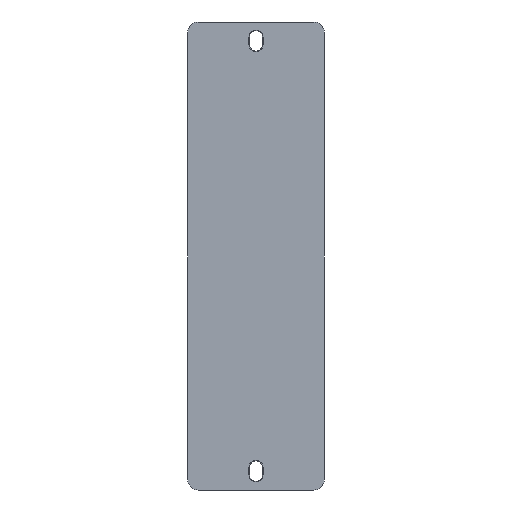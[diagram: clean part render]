
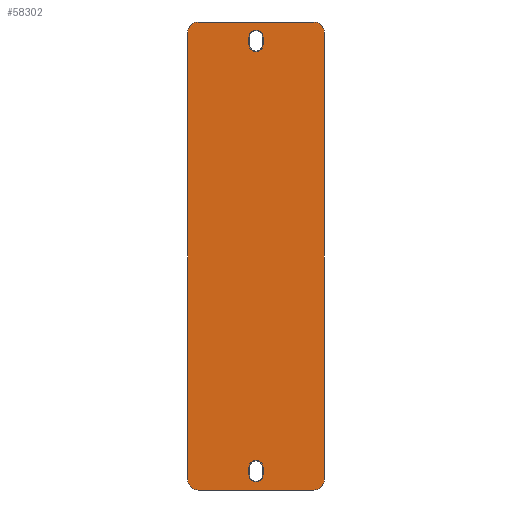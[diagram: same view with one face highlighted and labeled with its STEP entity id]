
A CAD part, front view. The second image highlights one B-rep face of the part: STEP entity #58302.
In plain terms, the highlighted planar face has unit normal (0, -1, 0).
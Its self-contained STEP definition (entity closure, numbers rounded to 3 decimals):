
#4253=CARTESIAN_POINT('',(27.5,12.,-163.7));
#4254=DIRECTION('',(0.,-1.,0.));
#4255=DIRECTION('',(0.,0.,-1.));
#4256=AXIS2_PLACEMENT_3D('',#4253,#4254,#4255);
#4258=DIRECTION('',(1.,0.,0.));
#4259=VECTOR('',#4258,55.);
#4260=CARTESIAN_POINT('',(-27.5,12.,-168.7));
#4261=LINE('',#4260,#4259);
#4262=CARTESIAN_POINT('',(-27.5,12.,-163.7));
#4263=DIRECTION('',(0.,-1.,0.));
#4264=DIRECTION('',(-1.,0.,0.));
#4265=AXIS2_PLACEMENT_3D('',#4262,#4263,#4264);
#4267=DIRECTION('',(0.,0.,-1.));
#4268=VECTOR('',#4267,212.4);
#4269=CARTESIAN_POINT('',(-32.5,12.,48.7));
#4270=LINE('',#4269,#4268);
#4271=CARTESIAN_POINT('',(-27.5,12.,48.7));
#4272=DIRECTION('',(0.,-1.,0.));
#4273=DIRECTION('',(0.,0.,1.));
#4274=AXIS2_PLACEMENT_3D('',#4271,#4272,#4273);
#4276=DIRECTION('',(-1.,0.,0.));
#4277=VECTOR('',#4276,55.);
#4278=CARTESIAN_POINT('',(27.5,12.,53.7));
#4279=LINE('',#4278,#4277);
#4280=CARTESIAN_POINT('',(27.5,12.,48.7));
#4281=DIRECTION('',(0.,-1.,0.));
#4282=DIRECTION('',(1.,0.,0.));
#4283=AXIS2_PLACEMENT_3D('',#4280,#4281,#4282);
#4285=DIRECTION('',(0.,0.,1.));
#4286=VECTOR('',#4285,212.4);
#4287=CARTESIAN_POINT('',(32.5,12.,-163.7));
#4288=LINE('',#4287,#4286);
#4289=CARTESIAN_POINT('',(0.,12.,43.));
#4290=DIRECTION('',(0.,1.,0.));
#4291=DIRECTION('',(1.,0.,0.));
#4292=AXIS2_PLACEMENT_3D('',#4289,#4290,#4291);
#4294=DIRECTION('',(0.,0.,-1.));
#4295=VECTOR('',#4294,3.5);
#4296=CARTESIAN_POINT('',(3.349,12.,46.5));
#4297=LINE('',#4296,#4295);
#4298=CARTESIAN_POINT('',(0.,12.,46.5));
#4299=DIRECTION('',(0.,1.,0.));
#4300=DIRECTION('',(0.,0.,1.));
#4301=AXIS2_PLACEMENT_3D('',#4298,#4299,#4300);
#4303=CARTESIAN_POINT('',(0.,12.,46.5));
#4304=DIRECTION('',(0.,1.,0.));
#4305=DIRECTION('',(-1.,0.,0.));
#4306=AXIS2_PLACEMENT_3D('',#4303,#4304,#4305);
#4308=DIRECTION('',(0.,0.,1.));
#4309=VECTOR('',#4308,3.5);
#4310=CARTESIAN_POINT('',(-3.349,12.,43.));
#4311=LINE('',#4310,#4309);
#4312=CARTESIAN_POINT('',(0.,12.,43.));
#4313=DIRECTION('',(0.,1.,0.));
#4314=DIRECTION('',(0.,0.,-1.));
#4315=AXIS2_PLACEMENT_3D('',#4312,#4313,#4314);
#4317=DIRECTION('',(0.,0.,-1.));
#4318=VECTOR('',#4317,3.5);
#4319=CARTESIAN_POINT('',(3.349,12.,-158.));
#4320=LINE('',#4319,#4318);
#4321=CARTESIAN_POINT('',(0.,12.,-158.));
#4322=DIRECTION('',(0.,1.,0.));
#4323=DIRECTION('',(0.,0.,1.));
#4324=AXIS2_PLACEMENT_3D('',#4321,#4322,#4323);
#4326=CARTESIAN_POINT('',(0.,12.,-158.));
#4327=DIRECTION('',(0.,1.,0.));
#4328=DIRECTION('',(-1.,0.,0.));
#4329=AXIS2_PLACEMENT_3D('',#4326,#4327,#4328);
#4331=DIRECTION('',(0.,0.,1.));
#4332=VECTOR('',#4331,3.5);
#4333=CARTESIAN_POINT('',(-3.349,12.,
-161.5));
#4334=LINE('',#4333,#4332);
#4335=CARTESIAN_POINT('',(0.,12.,-161.5));
#4336=DIRECTION('',(0.,1.,0.));
#4337=DIRECTION('',(0.,0.,-1.));
#4338=AXIS2_PLACEMENT_3D('',#4335,#4336,#4337);
#4340=CARTESIAN_POINT('',(0.,12.,-161.5));
#4341=DIRECTION('',(0.,1.,0.));
#4342=DIRECTION('',(1.,0.,0.));
#4343=AXIS2_PLACEMENT_3D('',#4340,#4341,#4342);
#46116=CARTESIAN_POINT('',(3.349,12.,46.5));
#46117=CARTESIAN_POINT('',(3.349,12.,43.));
#46118=VERTEX_POINT('',#46116);
#46119=VERTEX_POINT('',#46117);
#50094=CARTESIAN_POINT('',(27.5,12.,53.7));
#50095=CARTESIAN_POINT('',(-27.5,12.,53.7));
#50096=VERTEX_POINT('',#50094);
#50097=VERTEX_POINT('',#50095);
#50545=CARTESIAN_POINT('',(3.349,12.,-161.5));
#50547=VERTEX_POINT('',#50545);
#50934=CARTESIAN_POINT('',(-3.349,12.,
-158.));
#50936=VERTEX_POINT('',#50934);
#50986=CARTESIAN_POINT('',(32.5,12.,-163.7));
#50987=VERTEX_POINT('',#50986);
#51163=CARTESIAN_POINT('',(27.5,12.,-168.7));
#51164=VERTEX_POINT('',#51163);
#51176=CARTESIAN_POINT('',(-3.349,12.,
-161.5));
#51177=VERTEX_POINT('',#51176);
#51461=CARTESIAN_POINT('',(0.,12.,
-154.651));
#51462=VERTEX_POINT('',#51461);
#52509=CARTESIAN_POINT('',(32.5,12.,48.7));
#52510=VERTEX_POINT('',#52509);
#52907=CARTESIAN_POINT('',(3.349,12.,
-158.));
#52908=VERTEX_POINT('',#52907);
#53274=CARTESIAN_POINT('',(-27.5,12.,-168.7));
#53275=VERTEX_POINT('',#53274);
#53343=CARTESIAN_POINT('',(-32.5,12.,
48.7));
#53344=VERTEX_POINT('',#53343);
#53428=CARTESIAN_POINT('',(-3.349,12.,43.));
#53430=VERTEX_POINT('',#53428);
#54278=CARTESIAN_POINT('',(-3.349,12.,
46.5));
#54279=VERTEX_POINT('',#54278);
#54652=CARTESIAN_POINT('',(-32.5,12.,-163.7));
#54653=VERTEX_POINT('',#54652);
#55459=CARTESIAN_POINT('',(0.,12.,
49.849));
#55460=VERTEX_POINT('',#55459);
#55699=CARTESIAN_POINT('',(0.,12.,
39.651));
#55700=VERTEX_POINT('',#55699);
#55742=CARTESIAN_POINT('',(0.,12.,
-164.849));
#55743=VERTEX_POINT('',#55742);
#58257=CARTESIAN_POINT('',(0.,12.,-57.5));
#58258=DIRECTION('',(0.,1.,0.));
#58259=DIRECTION('',(0.,0.,-1.));
#58260=AXIS2_PLACEMENT_3D('',#58257,#58258,#58259);
#58261=PLANE('',#58260);
#58263=ORIENTED_EDGE('',*,*,#58262,.F.);
#58265=ORIENTED_EDGE('',*,*,#58264,.F.);
#58267=ORIENTED_EDGE('',*,*,#58266,.F.);
#58269=ORIENTED_EDGE('',*,*,#58268,.F.);
#58271=ORIENTED_EDGE('',*,*,#58270,.F.);
#58273=ORIENTED_EDGE('',*,*,#58272,.F.);
#58275=ORIENTED_EDGE('',*,*,#58274,.F.);
#58277=ORIENTED_EDGE('',*,*,#58276,.F.);
#58278=EDGE_LOOP('',(#58263,#58265,#58267,#58269,#58271,#58273,#58275,#58277));
#58279=FACE_OUTER_BOUND('',#58278,.F.);
#58281=ORIENTED_EDGE('',*,*,#58280,.F.);
#58283=ORIENTED_EDGE('',*,*,#58282,.F.);
#58285=ORIENTED_EDGE('',*,*,#58284,.F.);
#58287=ORIENTED_EDGE('',*,*,#58286,.F.);
#58289=ORIENTED_EDGE('',*,*,#58288,.F.);
#58291=ORIENTED_EDGE('',*,*,#58290,.F.);
#58292=EDGE_LOOP('',(#58281,#58283,#58285,#58287,#58289,#58291));
#58293=FACE_BOUND('',#58292,.F.);
#58294=ORIENTED_EDGE('',*,*,#58239,.F.);
#58295=ORIENTED_EDGE('',*,*,#58250,.F.);
#58296=ORIENTED_EDGE('',*,*,#58151,.F.);
#58297=ORIENTED_EDGE('',*,*,#58167,.F.);
#58298=ORIENTED_EDGE('',*,*,#58183,.F.);
#58299=ORIENTED_EDGE('',*,*,#58181,.F.);
#58300=EDGE_LOOP('',(#58294,#58295,#58296,#58297,#58298,#58299));
#58301=FACE_BOUND('',#58300,.F.);
#58302=ADVANCED_FACE('',(#58279,#58293,#58301),#58261,.F.);
#4257=CIRCLE('',#4256,5.);
#4266=CIRCLE('',#4265,5.);
#4275=CIRCLE('',#4274,5.);
#4284=CIRCLE('',#4283,5.);
#4293=CIRCLE('',#4292,3.349);
#4302=CIRCLE('',#4301,3.349);
#4307=CIRCLE('',#4306,3.349);
#4316=CIRCLE('',#4315,3.349);
#4325=CIRCLE('',#4324,3.349);
#4330=CIRCLE('',#4329,3.349);
#4339=CIRCLE('',#4338,3.349);
#4344=CIRCLE('',#4343,3.349);
#58151=EDGE_CURVE('',#50936,#51462,#4330,.T.);
#58167=EDGE_CURVE('',#51177,#50936,#4334,.T.);
#58181=EDGE_CURVE('',#50547,#55743,#4344,.T.);
#58183=EDGE_CURVE('',#55743,#51177,#4339,.T.);
#58239=EDGE_CURVE('',#52908,#50547,#4320,.T.);
#58250=EDGE_CURVE('',#51462,#52908,#4325,.T.);
#58262=EDGE_CURVE('',#51164,#50987,#4257,.T.);
#58264=EDGE_CURVE('',#53275,#51164,#4261,.T.);
#58266=EDGE_CURVE('',#54653,#53275,#4266,.T.);
#58268=EDGE_CURVE('',#53344,#54653,#4270,.T.);
#58270=EDGE_CURVE('',#50097,#53344,#4275,.T.);
#58272=EDGE_CURVE('',#50096,#50097,#4279,.T.);
#58274=EDGE_CURVE('',#52510,#50096,#4284,.T.);
#58276=EDGE_CURVE('',#50987,#52510,#4288,.T.);
#58280=EDGE_CURVE('',#46119,#55700,#4293,.T.);
#58282=EDGE_CURVE('',#46118,#46119,#4297,.T.);
#58284=EDGE_CURVE('',#55460,#46118,#4302,.T.);
#58286=EDGE_CURVE('',#54279,#55460,#4307,.T.);
#58288=EDGE_CURVE('',#53430,#54279,#4311,.T.);
#58290=EDGE_CURVE('',#55700,#53430,#4316,.T.);
